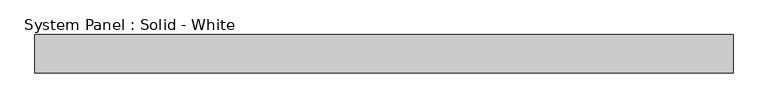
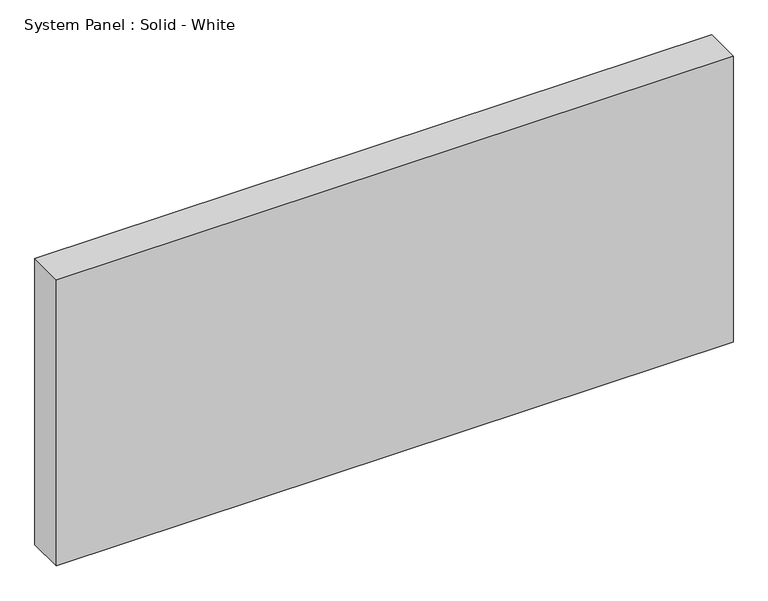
"""IFC4 building model written with IfcOpenShell, lengths in millimetres: plate geometry, System Panel : Solid - White."""

from ifc_helpers import new_model, si_unit, origin, origin_with_axes, place, context, project, spatial, polyline, outline, extrude, source, transform, mapped, element, save


def system_panel_solid_white_d7c5bbf2(model_context):
    return source(origin(), model_context, "Body", "SweptSolid", [
        extrude(outline(polyline([(575.3100001, -19.05), (-575.3100001, -19.05), (-575.3100001, 44.45), (575.3100001, 44.45), (575.3100001, -19.05)])), origin_with_axes(), (0.0, 0.0, 1.0), 514.35),
    ])


if __name__ == "__main__":
    model = new_model("IFC4")
    model_context = context("Model", 3, world=origin())
    ifc_project = project(units=[si_unit("LENGTHUNIT", "METRE", prefix="MILLI")], contexts=[model_context])
    site = spatial("IfcSite", under=ifc_project)
    building = spatial("IfcBuilding", under=site)
    placement = place(None, origin())
    system_panel_solid_white_shape = system_panel_solid_white_d7c5bbf2(model_context)
    element("IfcPlate", 1, ObjectType="System Panel : Solid - White", at=placement, inside=building, context=model_context, shape_type="MappedRepresentation", body=[
        mapped(system_panel_solid_white_shape, transform((0.0, 0.0, 0.0), x_axis=(1.0, 0.0, 0.0), y_axis=(0.0, 1.0, 0.0), z_axis=(0.0, 0.0, 1.0))),
    ])
    save(model, "model.ifc")
